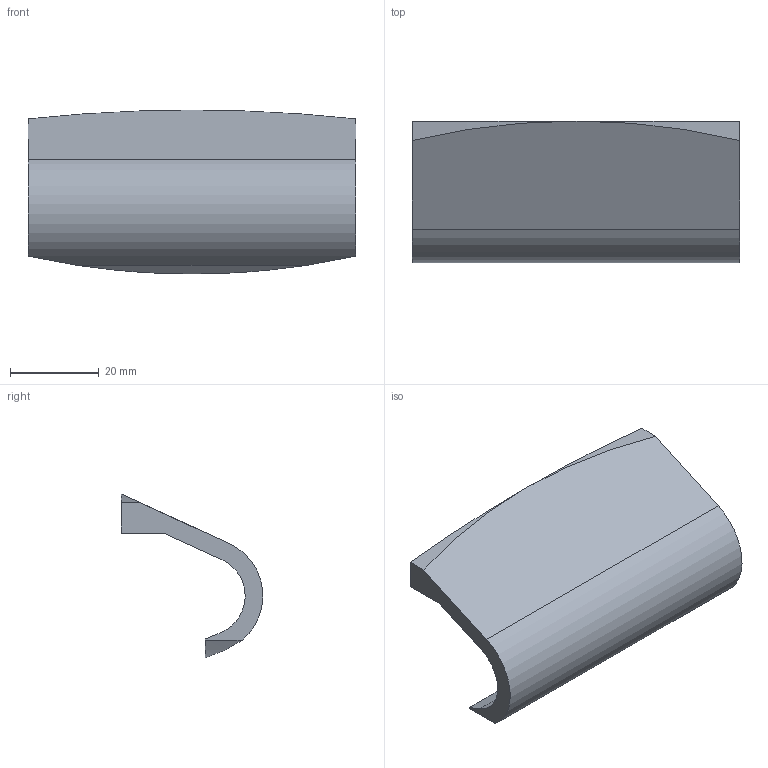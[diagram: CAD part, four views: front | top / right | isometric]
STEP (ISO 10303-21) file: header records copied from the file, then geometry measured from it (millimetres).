
FILE_DESCRIPTION( ( '' ), '1' );
FILE_NAME( 'D:/1.AUTOCAD EXPORT/Group 10/sheet_10_1/9065629.stp', '2013-10-21T06:45:45', ( '' ), ( '' ), ' ', ' ', ' ' );
FILE_SCHEMA( ( 'automotive_design' ) );
Length unit declared in the file: millimetre
Products named in the file (1): 1
Bounding box: 74 x 31.99 x 37 mm (x, y, z)
Volume: 17582.2 mm3; surface area: 9654.6 mm2
Topology: 1 solids, 1 shells, 21 faces, 50 edges, 33 vertices
Faces by surface type: plane 11, cylinder 10
Entity records: 1233 total; most frequent: CARTESIAN_POINT 119, DIRECTION 112, STYLED_ITEM 105, PRESENTATION_STYLE_ASSIGNMENT 105, COLOUR_RGB 105, ORIENTED_EDGE 100, EDGE_CURVE 50, CURVE_STYLE 50
